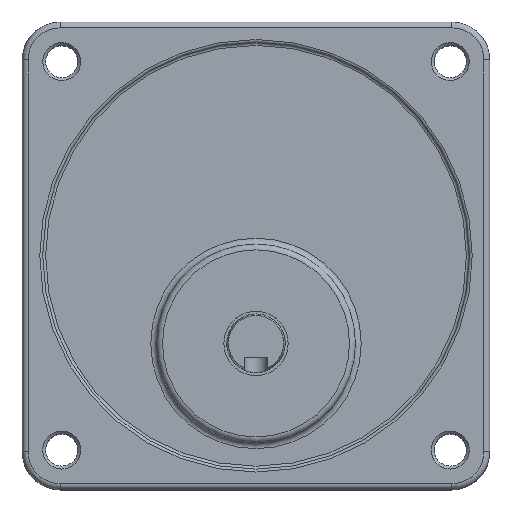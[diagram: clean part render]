
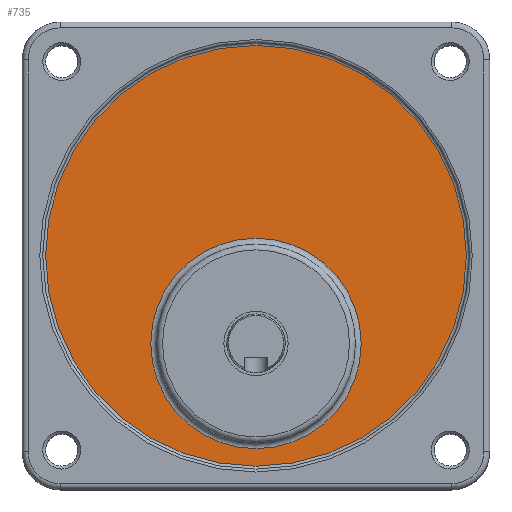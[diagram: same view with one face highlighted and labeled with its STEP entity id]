
A CAD part, top view. The second image highlights one B-rep face of the part: STEP entity #735.
In plain terms, the highlighted planar face has unit normal (0, 0, 1).
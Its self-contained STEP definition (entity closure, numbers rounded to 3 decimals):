
#684=CARTESIAN_POINT('',(58.,25.0,41.5));
#685=VERTEX_POINT('',#684);
#686=CARTESIAN_POINT('',(40.,25.0,41.5));
#687=DIRECTION('',(0.0,0.0,1.0));
#688=DIRECTION('',(-1.0,0.0,0.0));
#689=AXIS2_PLACEMENT_3D('',#686,#687,#688);
#690=CIRCLE('',#689,18.);
#691=EDGE_CURVE('',#685,#685,#690,.T.);
#716=CARTESIAN_POINT('',(40.,40.0,41.5));
#717=DIRECTION('',(0.0,0.0,-1.0));
#718=DIRECTION('',(-1.0,0.0,0.0));
#719=AXIS2_PLACEMENT_3D('',#716,#717,#718);
#720=PLANE('',#719);
#721=CARTESIAN_POINT('',(76.,40.,41.5));
#722=VERTEX_POINT('',#721);
#723=CARTESIAN_POINT('',(40.,40.0,41.5));
#724=DIRECTION('',(0.0,0.0,-1.0));
#725=DIRECTION('',(-1.0,0.0,0.0));
#726=AXIS2_PLACEMENT_3D('',#723,#724,#725);
#727=CIRCLE('',#726,36.);
#728=EDGE_CURVE('',#722,#722,#727,.T.);
#729=ORIENTED_EDGE('',*,*,#728,.F.);
#730=EDGE_LOOP('',(#729));
#731=FACE_OUTER_BOUND('',#730,.T.);
#732=ORIENTED_EDGE('',*,*,#691,.F.);
#733=EDGE_LOOP('',(#732));
#734=FACE_BOUND('',#733,.T.);
#735=ADVANCED_FACE('',(#731,#734),#720,.F.);
